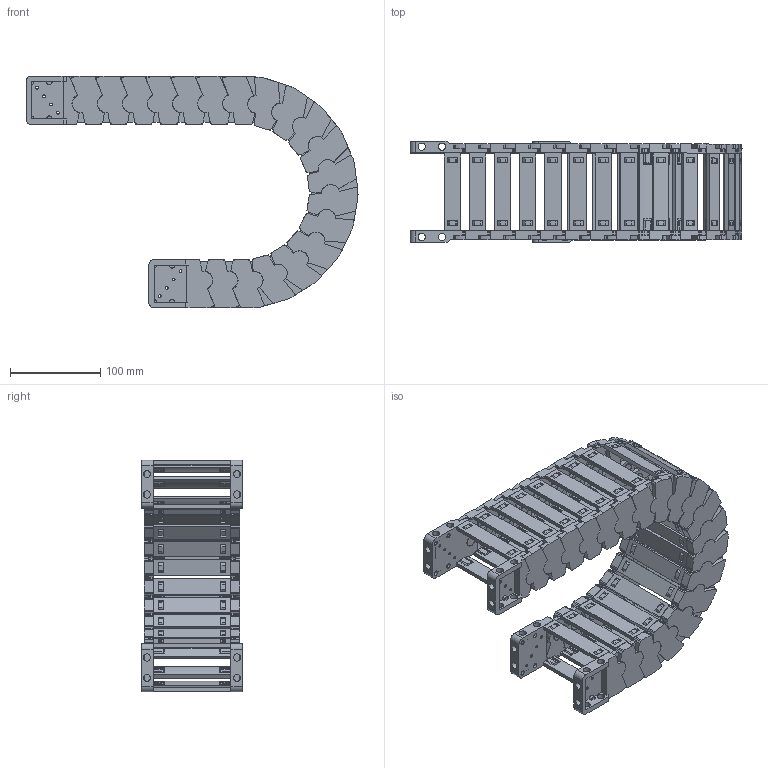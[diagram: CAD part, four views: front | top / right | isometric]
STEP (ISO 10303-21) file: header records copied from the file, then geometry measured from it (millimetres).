
FILE_DESCRIPTION((''),'2;1');
FILE_NAME('JY-42X85-R100_ASM','2025-04-14T15:21:50',('admin'),(''),'CREO PARAMETRIC BY PTC INC, 2021023','CREO PARAMETRIC BY PTC INC, 2021023','');
FILE_SCHEMA(('CONFIG_CONTROL_DESIGN'));
Length unit declared in the file: millimetre
Products named in the file (11): 42XL-L; 42-52XL-YP; 42XL-R; ASM0001_ASM; 42-LTT-A-L; 42-LTT-A-R; 42XL-LTT-A_ASM; 42-LTT-B-L; 42-LTT-B-R; 42XL-LTT-B_ASM; JY-42X85-R100_ASM
Assembly tree (33 placements, depth 3):
  JY-42X85-R100_ASM
    ASM0001_ASM  x19
      42XL-L
      42-52XL-YP
      42XL-R
    42XL-LTT-A_ASM
      42-LTT-A-L
      42-52XL-YP  x2
      42-LTT-A-R
    42XL-LTT-B_ASM
      42-LTT-B-L
      42-52XL-YP  x2
      42-LTT-B-R
Bounding box: 367.66 x 112 x 256.52 mm (x, y, z)
Volume: 871700.5 mm3; surface area: 504508.9 mm2
Topology: 84 solids, 84 shells, 4608 faces, 13808 edges, 9344 vertices
Faces by surface type: plane 3070, cylinder 1068, cone 380, bspline 72, torus 18
Entity records: 26489 total; most frequent: CARTESIAN_POINT 7339, ORIENTED_EDGE 4024, DIRECTION 3964, EDGE_CURVE 2012, AXIS2_PLACEMENT_3D 1432, VERTEX_POINT 1360, VECTOR 1100, LINE 1100
